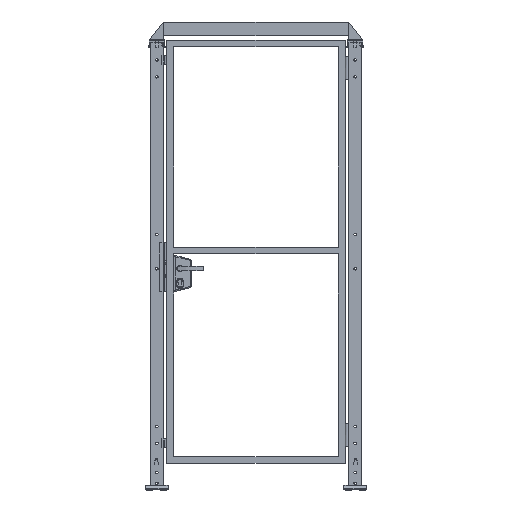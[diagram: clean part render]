
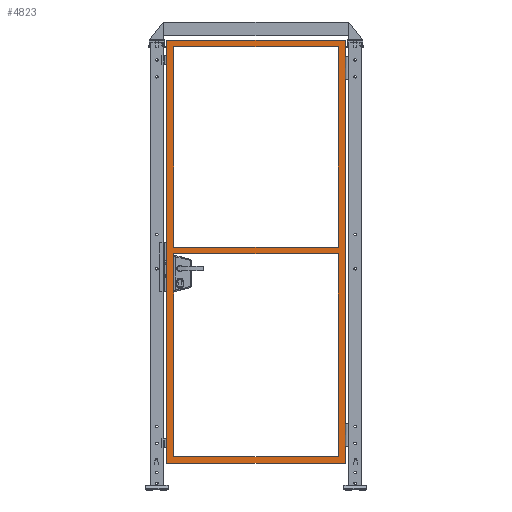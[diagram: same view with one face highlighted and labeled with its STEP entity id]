
A CAD part, top view. The second image highlights one B-rep face of the part: STEP entity #4823.
In plain terms, the highlighted planar face has unit normal (0, 0, 1).
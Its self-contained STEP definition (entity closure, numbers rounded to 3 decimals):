
#4823=ADVANCED_FACE('',(#9878,#9879,#9880),#9881,.F.);
#9878=FACE_BOUND('',#17852,.T.);
#9879=FACE_OUTER_BOUND('',#17853,.T.);
#9880=FACE_BOUND('',#17854,.T.);
#9881=PLANE('',#17855);
#17852=EDGE_LOOP('',(#32088,#32089,#32090,#32091));
#17853=EDGE_LOOP('',(#32092,#32093,#32094,#32095));
#17854=EDGE_LOOP('',(#32096,#32097,#32098,#32099));
#17855=AXIS2_PLACEMENT_3D('',#32100,#32101,#32102);
#32088=ORIENTED_EDGE('',*,*,#37969,.F.);
#32089=ORIENTED_EDGE('',*,*,#37975,.T.);
#32090=ORIENTED_EDGE('',*,*,#37997,.T.);
#32091=ORIENTED_EDGE('',*,*,#38002,.F.);
#32092=ORIENTED_EDGE('',*,*,#38013,.F.);
#32093=ORIENTED_EDGE('',*,*,#38007,.F.);
#32094=ORIENTED_EDGE('',*,*,#37977,.F.);
#32095=ORIENTED_EDGE('',*,*,#38011,.F.);
#32096=ORIENTED_EDGE('',*,*,#37999,.F.);
#32097=ORIENTED_EDGE('',*,*,#37994,.F.);
#32098=ORIENTED_EDGE('',*,*,#38005,.T.);
#32099=ORIENTED_EDGE('',*,*,#38014,.T.);
#32100=CARTESIAN_POINT('',(415.0,135.0,15.0));
#32101=DIRECTION('',(0.,0.0,-1.0));
#32102=DIRECTION('',(-1.0,0.0,0.));
#37969=EDGE_CURVE('',#46828,#46831,#46832,.T.);
#37975=EDGE_CURVE('',#46828,#46839,#46841,.T.);
#37977=EDGE_CURVE('',#46843,#46844,#46845,.T.);
#37994=EDGE_CURVE('',#46871,#46869,#46873,.T.);
#37997=EDGE_CURVE('',#46839,#46875,#46877,.T.);
#37999=EDGE_CURVE('',#46869,#46879,#46880,.T.);
#38002=EDGE_CURVE('',#46831,#46875,#46883,.T.);
#38005=EDGE_CURVE('',#46871,#46885,#46887,.T.);
#38007=EDGE_CURVE('',#46844,#46889,#46890,.T.);
#38011=EDGE_CURVE('',#46893,#46843,#46895,.T.);
#38013=EDGE_CURVE('',#46889,#46893,#46897,.T.);
#38014=EDGE_CURVE('',#46885,#46879,#46898,.T.);
#46828=VERTEX_POINT('',#60680);
#46831=VERTEX_POINT('',#60684);
#46832=LINE('',#60685,#60686);
#46839=VERTEX_POINT('',#60696);
#46841=LINE('',#60699,#60700);
#46843=VERTEX_POINT('',#60702);
#46844=VERTEX_POINT('',#60703);
#46845=LINE('',#60704,#60705);
#46869=VERTEX_POINT('',#60741);
#46871=VERTEX_POINT('',#60744);
#46873=LINE('',#60747,#60748);
#46875=VERTEX_POINT('',#60750);
#46877=LINE('',#60753,#60754);
#46879=VERTEX_POINT('',#60756);
#46880=LINE('',#60757,#60758);
#46883=LINE('',#60762,#60763);
#46885=VERTEX_POINT('',#60765);
#46887=LINE('',#60768,#60769);
#46889=VERTEX_POINT('',#60771);
#46890=LINE('',#60772,#60773);
#46893=VERTEX_POINT('',#60777);
#46895=LINE('',#60780,#60781);
#46897=LINE('',#60783,#60784);
#46898=LINE('',#60785,#60786);
#60680=CARTESIAN_POINT('',(785.0,1990.0,15.0));
#60684=CARTESIAN_POINT('',(45.,1990.0,15.0));
#60685=CARTESIAN_POINT('',(415.0,1990.0,15.0));
#60686=VECTOR('',#67067,1.0);
#60696=CARTESIAN_POINT('',(785.0,1090.0,15.0));
#60699=CARTESIAN_POINT('',(785.0,1070.0,15.0));
#60700=VECTOR('',#67072,1.0);
#60702=CARTESIAN_POINT('',(15.0,120.0,15.0));
#60703=CARTESIAN_POINT('',(15.,2020.0,15.0));
#60704=CARTESIAN_POINT('',(15.0,135.0,15.0));
#60705=VECTOR('',#67073,1.0);
#60741=CARTESIAN_POINT('',(45.,1060.0,15.0));
#60744=CARTESIAN_POINT('',(785.0,1060.0,15.0));
#60747=CARTESIAN_POINT('',(415.0,1060.0,15.0));
#60748=VECTOR('',#67088,1.0);
#60750=CARTESIAN_POINT('',(45.,1090.0,15.0));
#60753=CARTESIAN_POINT('',(415.0,1090.0,15.0));
#60754=VECTOR('',#67090,1.0);
#60756=CARTESIAN_POINT('',(45.0,150.0,15.0));
#60757=CARTESIAN_POINT('',(45.,1070.0,15.0));
#60758=VECTOR('',#67091,1.0);
#60762=CARTESIAN_POINT('',(45.,1070.0,15.0));
#60763=VECTOR('',#67093,1.0);
#60765=CARTESIAN_POINT('',(785.0,150.0,15.0));
#60768=CARTESIAN_POINT('',(785.0,1070.0,15.0));
#60769=VECTOR('',#67095,1.0);
#60771=CARTESIAN_POINT('',(815.0,2020.0,15.0));
#60772=CARTESIAN_POINT('',(30.,2020.0,15.0));
#60773=VECTOR('',#67096,1.0);
#60777=CARTESIAN_POINT('',(815.0,120.0,15.0));
#60780=CARTESIAN_POINT('',(415.0,120.0,15.0));
#60781=VECTOR('',#67099,1.0);
#60783=CARTESIAN_POINT('',(815.0,1070.0,15.0));
#60784=VECTOR('',#67100,1.0);
#60785=CARTESIAN_POINT('',(415.0,150.0,15.0));
#60786=VECTOR('',#67101,1.0);
#67067=DIRECTION('',(-1.0,0.0,0.));
#67072=DIRECTION('',(0.,-1.0,0.));
#67073=DIRECTION('',(0.0,1.0,0.0));
#67088=DIRECTION('',(-1.0,0.0,0.));
#67090=DIRECTION('',(-1.0,0.0,0.));
#67091=DIRECTION('',(0.,-1.0,0.));
#67093=DIRECTION('',(0.,-1.0,0.));
#67095=DIRECTION('',(0.,-1.0,0.));
#67096=DIRECTION('',(1.0,0.,0.));
#67099=DIRECTION('',(-1.0,0.0,0.));
#67100=DIRECTION('',(0.,-1.0,0.));
#67101=DIRECTION('',(-1.0,0.0,0.));
